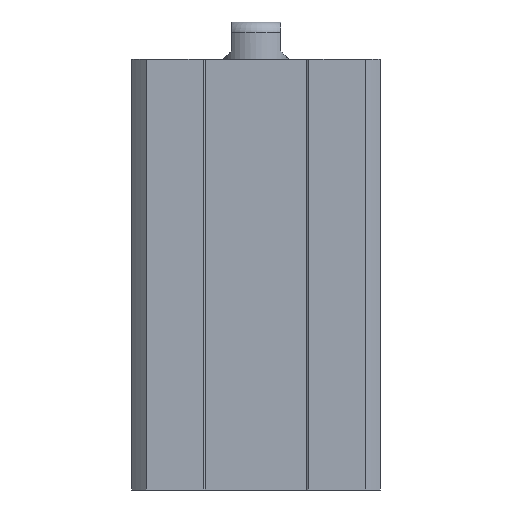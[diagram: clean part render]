
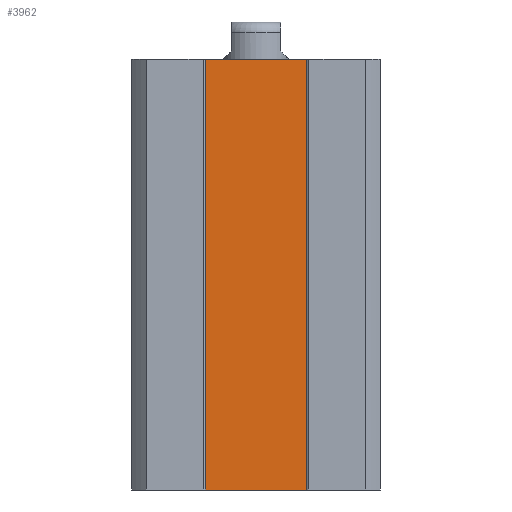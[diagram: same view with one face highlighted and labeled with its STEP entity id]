
A CAD part, front view. The second image highlights one B-rep face of the part: STEP entity #3962.
In plain terms, the highlighted planar face has unit normal (0, -1, 0).
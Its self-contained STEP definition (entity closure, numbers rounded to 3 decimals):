
#155=PLANE('',#4292);
#245=LINE('',#5706,#411);
#246=LINE('',#5711,#412);
#322=LINE('',#6086,#488);
#323=LINE('',#6087,#489);
#411=VECTOR('',#4716,1000.);
#412=VECTOR('',#4721,1000.);
#488=VECTOR('',#5049,1000.);
#489=VECTOR('',#5050,1000.);
#898=ORIENTED_EDGE('',*,*,#1555,.T.);
#899=ORIENTED_EDGE('',*,*,#1403,.F.);
#900=ORIENTED_EDGE('',*,*,#1556,.T.);
#901=ORIENTED_EDGE('',*,*,#1405,.T.);
#1403=EDGE_CURVE('',#1762,#1761,#245,.T.);
#1405=EDGE_CURVE('',#1765,#1764,#246,.T.);
#1555=EDGE_CURVE('',#1764,#1761,#322,.T.);
#1556=EDGE_CURVE('',#1762,#1765,#323,.T.);
#1761=VERTEX_POINT('',#5703);
#1762=VERTEX_POINT('',#5705);
#1764=VERTEX_POINT('',#5710);
#1765=VERTEX_POINT('',#5712);
#2307=EDGE_LOOP('',(#898,#899,#900,#901));
#2592=FACE_BOUND('',#2307,.T.);
#3962=ADVANCED_FACE('',(#2592),#155,.T.);
#4292=AXIS2_PLACEMENT_3D('',#6085,#5047,#5048);
#4716=DIRECTION('',(0.,0.,1.));
#4721=DIRECTION('',(0.,0.,1.));
#5047=DIRECTION('',(0.,-1.,0.));
#5048=DIRECTION('',(0.,0.,-1.));
#5049=DIRECTION('',(-1.,0.,0.));
#5050=DIRECTION('',(1.,0.,0.));
#5703=CARTESIAN_POINT('',(-6.124,-10.,52.));
#5705=CARTESIAN_POINT('',(-6.124,-10.,0.));
#5706=CARTESIAN_POINT('',(-6.124,-10.,0.));
#5710=CARTESIAN_POINT('',(6.124,-10.,52.));
#5711=CARTESIAN_POINT('',(6.124,-10.,0.));
#5712=CARTESIAN_POINT('',(6.124,-10.,0.));
#6085=CARTESIAN_POINT('',(6.124,-10.,0.));
#6086=CARTESIAN_POINT('',(6.124,-10.,52.));
#6087=CARTESIAN_POINT('',(-6.124,-10.,0.));
